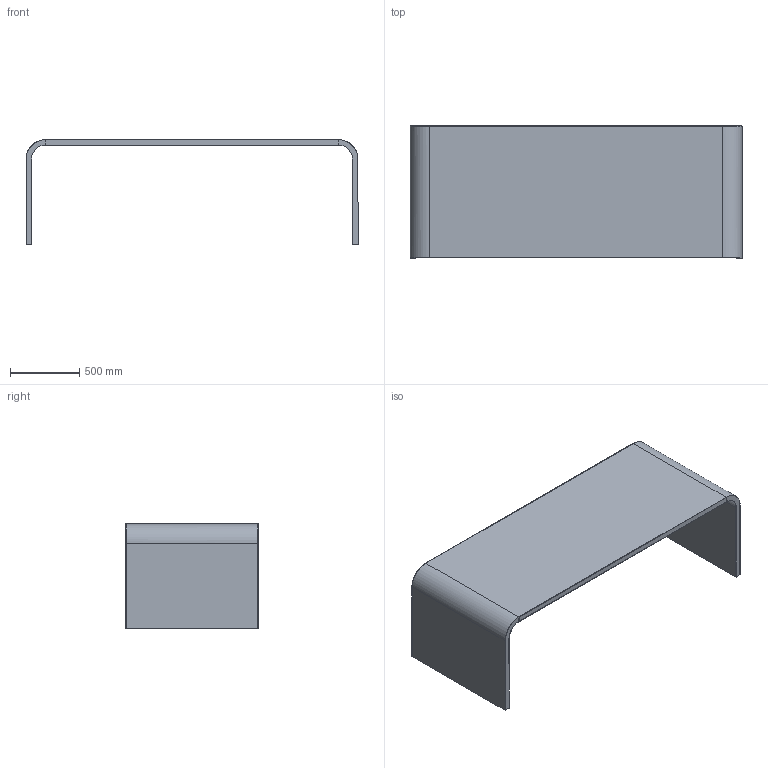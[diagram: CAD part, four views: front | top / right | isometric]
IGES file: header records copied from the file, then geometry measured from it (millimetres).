
Start section: Comment
Global section: file name: M10-2-24.igs; native system:  By UGS Corp.; preprocessor: XPlus GENERIC/IGES 3.0; author: Author; organization: Title; date: 20161104.123209; units: inch
Bounding box: 2396 x 953 x 755 mm (x, y, z)
Surface area: 8216485.8 mm2 (no closed solid volume)
Topology: 0 solids, 0 shells, 66 faces, 288 edges, 288 vertices
Faces by surface type: bspline 66
